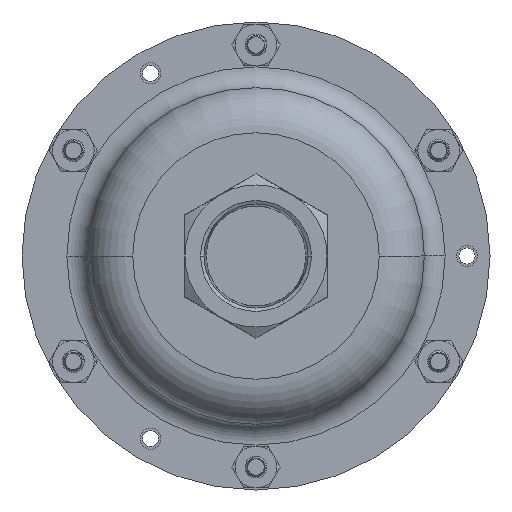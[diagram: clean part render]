
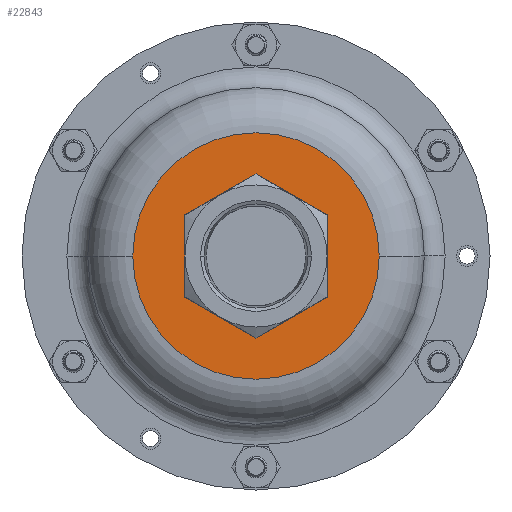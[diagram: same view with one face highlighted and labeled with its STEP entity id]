
A CAD part, front view. The second image highlights one B-rep face of the part: STEP entity #22843.
In plain terms, the highlighted planar face has unit normal (0, -1, 0).
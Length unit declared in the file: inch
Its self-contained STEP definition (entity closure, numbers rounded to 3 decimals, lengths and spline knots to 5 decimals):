
#1450 = EDGE_CURVE ( 'NONE', #20879, #10700, #11314, .T. ) ;
#1681 = AXIS2_PLACEMENT_3D ( 'NONE', #7748, #17552, #11767 ) ;
#1813 = DIRECTION ( 'NONE',  ( 0., -1., 0. ) ) ;
#2608 = VERTEX_POINT ( 'NONE', #6260 ) ;
#3229 = DIRECTION ( 'NONE',  ( 0., 1., 0. ) ) ;
#3832 = ORIENTED_EDGE ( 'NONE', *, *, #1450, .F. ) ;
#6260 = CARTESIAN_POINT ( 'NONE',  ( 0.434, -0.40399, 0. ) ) ;
#7417 = CARTESIAN_POINT ( 'NONE',  ( 0.9215, -0.40399, 0. ) ) ;
#7748 = CARTESIAN_POINT ( 'NONE',  ( 0., -0.40399, 0. ) ) ;
#8998 = PLANE ( 'NONE',  #22507 ) ;
#9095 = CARTESIAN_POINT ( 'NONE',  ( -0.434, -0.40399, 0. ) ) ;
#9377 = FACE_BOUND ( 'NONE', #13862, .T. ) ;
#9469 = ORIENTED_EDGE ( 'NONE', *, *, #17024, .F. ) ;
#10446 = EDGE_CURVE ( 'NONE', #24240, #2608, #15379, .T. ) ;
#10700 = VERTEX_POINT ( 'NONE', #12675 ) ;
#11314 = CIRCLE ( 'NONE', #22980, 0.9215 ) ;
#11400 = DIRECTION ( 'NONE',  ( 1., 0., 0. ) ) ;
#11709 = CIRCLE ( 'NONE', #14934, 0.434 ) ;
#11767 = DIRECTION ( 'NONE',  ( -1., 0., 0. ) ) ;
#12555 = DIRECTION ( 'NONE',  ( -1., 0., 0. ) ) ;
#12675 = CARTESIAN_POINT ( 'NONE',  ( -0.9215, -0.40399, 0. ) ) ;
#13862 = EDGE_LOOP ( 'NONE', ( #18362, #22237 ) ) ;
#14318 = CARTESIAN_POINT ( 'NONE',  ( 0., -0.40399, 0. ) ) ;
#14572 = DIRECTION ( 'NONE',  ( 0., 1., 0. ) ) ;
#14934 = AXIS2_PLACEMENT_3D ( 'NONE', #20957, #24362, #11400 ) ;
#15379 = CIRCLE ( 'NONE', #19388, 0.434 ) ;
#16290 = EDGE_LOOP ( 'NONE', ( #9469, #3832 ) ) ;
#16541 = CIRCLE ( 'NONE', #1681, 0.9215 ) ;
#16674 = CARTESIAN_POINT ( 'NONE',  ( 0., -0.40399, 0.9215 ) ) ;
#17024 = EDGE_CURVE ( 'NONE', #10700, #20879, #16541, .T. ) ;
#17148 = DIRECTION ( 'NONE',  ( 1., 0., 0. ) ) ;
#17468 = EDGE_CURVE ( 'NONE', #2608, #24240, #11709, .T. ) ;
#17552 = DIRECTION ( 'NONE',  ( 0., 1., 0. ) ) ;
#18362 = ORIENTED_EDGE ( 'NONE', *, *, #17468, .F. ) ;
#19039 = CARTESIAN_POINT ( 'NONE',  ( 0., -0.40399, 0. ) ) ;
#19388 = AXIS2_PLACEMENT_3D ( 'NONE', #19039, #1813, #17148 ) ;
#20317 = FACE_OUTER_BOUND ( 'NONE', #16290, .T. ) ;
#20879 = VERTEX_POINT ( 'NONE', #7417 ) ;
#20957 = CARTESIAN_POINT ( 'NONE',  ( 0., -0.40399, 0. ) ) ;
#22237 = ORIENTED_EDGE ( 'NONE', *, *, #10446, .F. ) ;
#22507 = AXIS2_PLACEMENT_3D ( 'NONE', #16674, #3229, #22711 ) ;
#22711 = DIRECTION ( 'NONE',  ( -1., 0., 0. ) ) ;
#22843 = ADVANCED_FACE ( 'NONE', ( #9377, #20317 ), #8998, .F. ) ;
#22980 = AXIS2_PLACEMENT_3D ( 'NONE', #14318, #14572, #12555 ) ;
#24240 = VERTEX_POINT ( 'NONE', #9095 ) ;
#24362 = DIRECTION ( 'NONE',  ( 0., -1., 0. ) ) ;
